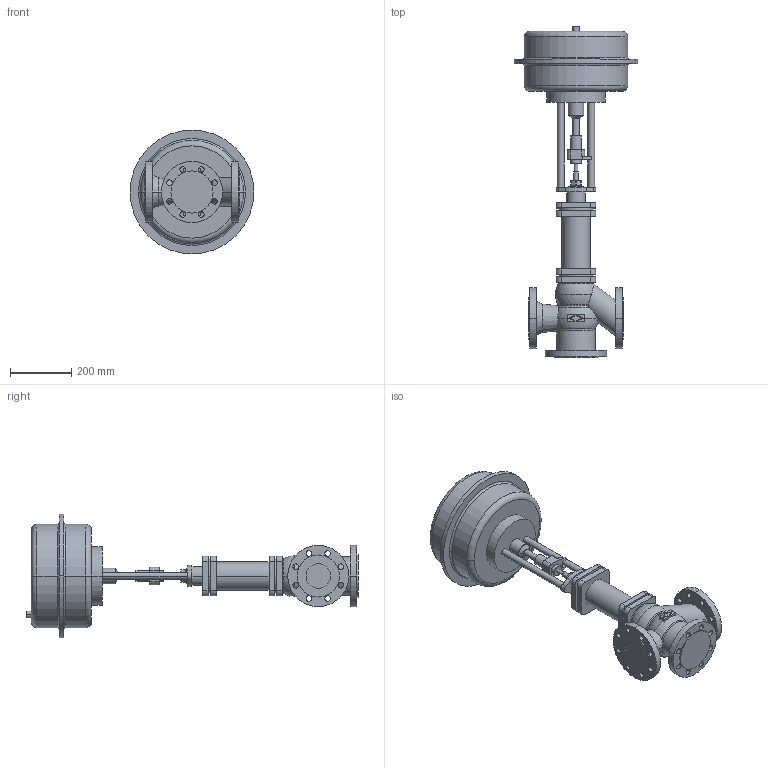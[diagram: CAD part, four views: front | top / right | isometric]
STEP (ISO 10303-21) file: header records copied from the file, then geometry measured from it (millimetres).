
FILE_DESCRIPTION(('OneSpaceDesigner STEP Export'),'2;1');
FILE_NAME('c000000739.stp','2006-09-21T 8:39:48',(''),(''),'OneSpace Designer STEP processor for AP214 (Solid Model)','OneSpace Designer 13.20A 18-Aug-2005 (C) CoCreate Software GmbH','');
FILE_SCHEMA(('AUTOMOTIVE_DESIGN { 1 0 10303 214 1 1 1 1 }'));
Length unit declared in the file: millimetre
Products named in the file (2): 1; 2
Bounding box: 405 x 1086.7 x 405 mm (x, y, z)
Volume: 28352033.7 mm3; surface area: 1073937.5 mm2
Topology: 2 solids, 2 shells, 264 faces, 665 edges, 435 vertices
Faces by surface type: cylinder 138, plane 96, torus 20, cone 6, sphere 4
Entity records: 7358 total; most frequent: CARTESIAN_POINT 1441, ORIENTED_EDGE 1322, DIRECTION 1088, EDGE_CURVE 661, VERTEX_POINT 435, AXIS2_PLACEMENT_3D 395, EDGE_LOOP 346, VECTOR 298
